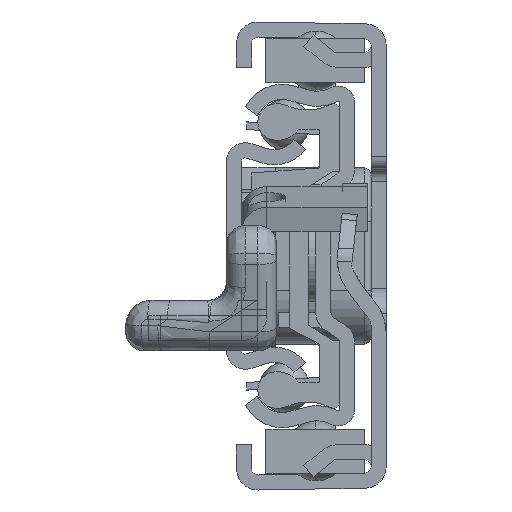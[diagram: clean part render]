
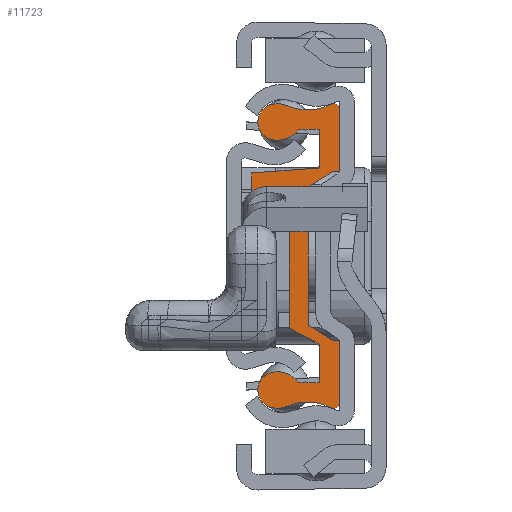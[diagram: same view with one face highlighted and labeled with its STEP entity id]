
A CAD part, left-side view. The second image highlights one B-rep face of the part: STEP entity #11723.
In plain terms, the highlighted planar face has unit normal (-1, 0, 0).
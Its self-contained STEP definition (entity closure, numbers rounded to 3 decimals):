
#11012=DIRECTION('',(0.,-1.,0.));
#11013=VECTOR('',#11012,0.5);
#11014=CARTESIAN_POINT('',(0.,0.5,6.75));
#11015=LINE('',#11014,#11013);
#11016=DIRECTION('',(0.,0.,-1.));
#11017=VECTOR('',#11016,11.);
#11018=CARTESIAN_POINT('',(0.,2.5,5.5));
#11019=LINE('',#11018,#11017);
#11020=DIRECTION('',(0.,1.,0.));
#11021=VECTOR('',#11020,0.5);
#11022=CARTESIAN_POINT('',(0.,0.,-6.75));
#11023=LINE('',#11022,#11021);
#11024=DIRECTION('',(0.,0.,-1.));
#11025=VECTOR('',#11024,4.85);
#11026=CARTESIAN_POINT('',(0.,0.,-6.75));
#11027=LINE('',#11026,#11025);
#11028=CARTESIAN_POINT('',(0.,0.5,-11.6));
#11029=DIRECTION('',(1.,0.,0.));
#11030=DIRECTION('',(0.,-1.,0.));
#11031=AXIS2_PLACEMENT_3D('',#11028,#11029,#11030);
#11033=CARTESIAN_POINT('',(0.,2.539,-15.612));
#11034=DIRECTION('',(-1.,0.,0.));
#11035=DIRECTION('',(0.,-0.453,0.891));
#11036=AXIS2_PLACEMENT_3D('',#11033,#11034,#11035);
#11038=CARTESIAN_POINT('',(0.,4.91,-10.1));
#11039=DIRECTION('',(1.,0.,0.));
#11040=DIRECTION('',(0.,-0.395,-0.919));
#11041=AXIS2_PLACEMENT_3D('',#11038,#11039,#11040);
#11043=CARTESIAN_POINT('',(0.,5.074,-10.65));
#11044=DIRECTION('',(1.,0.,0.));
#11045=DIRECTION('',(0.,0.286,-0.958));
#11046=AXIS2_PLACEMENT_3D('',#11043,#11044,#11045);
#11048=CARTESIAN_POINT('',(0.,4.91,-11.2));
#11049=DIRECTION('',(1.,0.,0.));
#11050=DIRECTION('',(0.,0.286,0.958));
#11051=AXIS2_PLACEMENT_3D('',#11048,#11049,#11050);
#11053=CARTESIAN_POINT('',(0.,4.91,-11.2));
#11054=DIRECTION('',(1.,0.,0.));
#11055=DIRECTION('',(0.,-0.395,0.919));
#11056=AXIS2_PLACEMENT_3D('',#11053,#11054,#11055);
#11058=CARTESIAN_POINT('',(0.,2.539,-15.612));
#11059=DIRECTION('',(1.,0.,0.));
#11060=DIRECTION('',(0.,0.13,0.992));
#11061=AXIS2_PLACEMENT_3D('',#11058,#11059,#11060);
#11063=DIRECTION('',(0.,0.,1.));
#11064=VECTOR('',#11063,3.09);
#11065=CARTESIAN_POINT('',(0.,1.605,-10.09));
#11066=LINE('',#11065,#11064);
#11067=DIRECTION('',(0.,0.887,0.463));
#11068=VECTOR('',#11067,2.701);
#11069=CARTESIAN_POINT('',(0.,1.605,-7.));
#11070=LINE('',#11069,#11068);
#11071=DIRECTION('',(0.,0.,1.));
#11072=VECTOR('',#11071,9.75);
#11073=CARTESIAN_POINT('',(0.,4.,-5.75));
#11074=LINE('',#11073,#11072);
#11075=DIRECTION('',(0.,0.999,0.033));
#11076=VECTOR('',#11075,3.002);
#11077=CARTESIAN_POINT('',(0.,4.,4.));
#11078=LINE('',#11077,#11076);
#11079=DIRECTION('',(0.,0.,1.));
#11080=VECTOR('',#11079,2.5);
#11081=CARTESIAN_POINT('',(0.,7.,4.1));
#11082=LINE('',#11081,#11080);
#11083=DIRECTION('',(0.,-0.997,0.074));
#11084=VECTOR('',#11083,5.41);
#11085=CARTESIAN_POINT('',(0.,7.,6.6));
#11086=LINE('',#11085,#11084);
#11087=DIRECTION('',(0.,0.,1.));
#11088=VECTOR('',#11087,3.09);
#11089=CARTESIAN_POINT('',(0.,1.605,7.));
#11090=LINE('',#11089,#11088);
#11091=CARTESIAN_POINT('',(0.,2.539,15.612));
#11092=DIRECTION('',(1.,0.,0.));
#11093=DIRECTION('',(0.,-0.167,-0.986));
#11094=AXIS2_PLACEMENT_3D('',#11091,#11092,#11093);
#11096=CARTESIAN_POINT('',(0.,4.91,11.2));
#11097=DIRECTION('',(1.,0.,0.));
#11098=DIRECTION('',(0.,-0.821,-0.57));
#11099=AXIS2_PLACEMENT_3D('',#11096,#11097,#11098);
#11101=CARTESIAN_POINT('',(0.,4.91,11.2));
#11102=DIRECTION('',(1.,0.,0.));
#11103=DIRECTION('',(0.,-0.395,-0.919));
#11104=AXIS2_PLACEMENT_3D('',#11101,#11102,#11103);
#11106=CARTESIAN_POINT('',(0.,5.074,10.65));
#11107=DIRECTION('',(1.,0.,0.));
#11108=DIRECTION('',(0.,0.286,-0.958));
#11109=AXIS2_PLACEMENT_3D('',#11106,#11107,#11108);
#11111=CARTESIAN_POINT('',(0.,4.91,10.1));
#11112=DIRECTION('',(1.,0.,0.));
#11113=DIRECTION('',(0.,0.286,0.958));
#11114=AXIS2_PLACEMENT_3D('',#11111,#11112,#11113);
#11116=CARTESIAN_POINT('',(0.,2.539,15.612));
#11117=DIRECTION('',(-1.,0.,0.));
#11118=DIRECTION('',(0.,0.395,-0.919));
#11119=AXIS2_PLACEMENT_3D('',#11116,#11117,#11118);
#11121=CARTESIAN_POINT('',(0.,0.5,11.6));
#11122=DIRECTION('',(1.,0.,0.));
#11123=DIRECTION('',(0.,0.453,0.891));
#11124=AXIS2_PLACEMENT_3D('',#11121,#11122,#11123);
#11126=DIRECTION('',(0.,0.,-1.));
#11127=VECTOR('',#11126,4.85);
#11128=CARTESIAN_POINT('',(0.,0.,11.6));
#11129=LINE('',#11128,#11127);
#11436=DIRECTION('',(0.,-0.848,0.53));
#11437=VECTOR('',#11436,2.358);
#11438=CARTESIAN_POINT('',(0.,2.5,5.5));
#11439=LINE('',#11438,#11437);
#11452=DIRECTION('',(0.,0.848,0.53));
#11453=VECTOR('',#11452,2.358);
#11454=CARTESIAN_POINT('',(0.,0.5,-6.75));
#11455=LINE('',#11454,#11453);
#11508=CARTESIAN_POINT('',(0.,4.12,-11.937));
#11509=CARTESIAN_POINT('',(0.,5.481,-12.017));
#11510=VERTEX_POINT('',#11508);
#11511=VERTEX_POINT('',#11509);
#11512=CARTESIAN_POINT('',(0.,5.481,-9.283));
#11513=VERTEX_POINT('',#11512);
#11514=CARTESIAN_POINT('',(0.,4.12,-9.363));
#11515=VERTEX_POINT('',#11514);
#11516=CARTESIAN_POINT('',(0.,3.267,-10.059));
#11517=VERTEX_POINT('',#11516);
#11518=CARTESIAN_POINT('',(0.,1.605,-10.09));
#11519=VERTEX_POINT('',#11518);
#11520=CARTESIAN_POINT('',(0.,1.605,10.09));
#11521=CARTESIAN_POINT('',(0.,3.267,10.059));
#11522=VERTEX_POINT('',#11520);
#11523=VERTEX_POINT('',#11521);
#11524=CARTESIAN_POINT('',(0.,4.12,9.363));
#11525=VERTEX_POINT('',#11524);
#11526=CARTESIAN_POINT('',(0.,5.481,9.283));
#11527=VERTEX_POINT('',#11526);
#11528=CARTESIAN_POINT('',(0.,5.481,12.017));
#11529=VERTEX_POINT('',#11528);
#11530=CARTESIAN_POINT('',(0.,4.12,11.937));
#11531=VERTEX_POINT('',#11530);
#11532=CARTESIAN_POINT('',(0.,0.727,12.046));
#11533=VERTEX_POINT('',#11532);
#11534=CARTESIAN_POINT('',(0.,0.,11.6));
#11535=VERTEX_POINT('',#11534);
#11536=CARTESIAN_POINT('',(0.,0.,-11.6));
#11537=CARTESIAN_POINT('',(0.,0.727,-12.046));
#11538=VERTEX_POINT('',#11536);
#11539=VERTEX_POINT('',#11537);
#11572=CARTESIAN_POINT('',(0.,1.605,-7.));
#11574=VERTEX_POINT('',#11572);
#11590=CARTESIAN_POINT('',(0.,0.,6.75));
#11591=VERTEX_POINT('',#11590);
#11592=CARTESIAN_POINT('',(0.,0.,-6.75));
#11593=VERTEX_POINT('',#11592);
#11594=CARTESIAN_POINT('',(0.,7.,4.1));
#11595=CARTESIAN_POINT('',(0.,7.,6.6));
#11596=VERTEX_POINT('',#11594);
#11597=VERTEX_POINT('',#11595);
#11602=CARTESIAN_POINT('',(0.,1.605,7.));
#11604=VERTEX_POINT('',#11602);
#11606=CARTESIAN_POINT('',(0.,4.,4.));
#11608=VERTEX_POINT('',#11606);
#11650=CARTESIAN_POINT('',(0.,2.5,5.5));
#11651=CARTESIAN_POINT('',(0.,0.5,6.75));
#11652=VERTEX_POINT('',#11650);
#11653=VERTEX_POINT('',#11651);
#11654=CARTESIAN_POINT('',(0.,0.5,-6.75));
#11655=CARTESIAN_POINT('',(0.,2.5,-5.5));
#11656=VERTEX_POINT('',#11654);
#11657=VERTEX_POINT('',#11655);
#11658=CARTESIAN_POINT('',(0.,4.,-5.75));
#11659=VERTEX_POINT('',#11658);
#11660=CARTESIAN_POINT('',(0.,0.,0.));
#11661=DIRECTION('',(1.,0.,0.));
#11662=DIRECTION('',(0.,0.,-1.));
#11663=AXIS2_PLACEMENT_3D('',#11660,#11661,#11662);
#11664=PLANE('',#11663);
#11666=ORIENTED_EDGE('',*,*,#11665,.F.);
#11668=ORIENTED_EDGE('',*,*,#11667,.F.);
#11670=ORIENTED_EDGE('',*,*,#11669,.T.);
#11672=ORIENTED_EDGE('',*,*,#11671,.F.);
#11674=ORIENTED_EDGE('',*,*,#11673,.F.);
#11676=ORIENTED_EDGE('',*,*,#11675,.T.);
#11678=ORIENTED_EDGE('',*,*,#11677,.T.);
#11680=ORIENTED_EDGE('',*,*,#11679,.T.);
#11682=ORIENTED_EDGE('',*,*,#11681,.T.);
#11684=ORIENTED_EDGE('',*,*,#11683,.T.);
#11686=ORIENTED_EDGE('',*,*,#11685,.T.);
#11688=ORIENTED_EDGE('',*,*,#11687,.T.);
#11690=ORIENTED_EDGE('',*,*,#11689,.T.);
#11692=ORIENTED_EDGE('',*,*,#11691,.T.);
#11694=ORIENTED_EDGE('',*,*,#11693,.T.);
#11696=ORIENTED_EDGE('',*,*,#11695,.T.);
#11698=ORIENTED_EDGE('',*,*,#11697,.T.);
#11700=ORIENTED_EDGE('',*,*,#11699,.T.);
#11702=ORIENTED_EDGE('',*,*,#11701,.T.);
#11704=ORIENTED_EDGE('',*,*,#11703,.T.);
#11706=ORIENTED_EDGE('',*,*,#11705,.T.);
#11708=ORIENTED_EDGE('',*,*,#11707,.T.);
#11710=ORIENTED_EDGE('',*,*,#11709,.T.);
#11712=ORIENTED_EDGE('',*,*,#11711,.T.);
#11714=ORIENTED_EDGE('',*,*,#11713,.T.);
#11716=ORIENTED_EDGE('',*,*,#11715,.T.);
#11718=ORIENTED_EDGE('',*,*,#11717,.T.);
#11720=ORIENTED_EDGE('',*,*,#11719,.T.);
#11721=EDGE_LOOP('',(#11666,#11668,#11670,#11672,#11674,#11676,#11678,#11680,
#11682,#11684,#11686,#11688,#11690,#11692,#11694,#11696,#11698,#11700,#11702,
#11704,#11706,#11708,#11710,#11712,#11714,#11716,#11718,#11720));
#11722=FACE_OUTER_BOUND('',#11721,.F.);
#11032=CIRCLE('',#11031,0.5);
#11037=CIRCLE('',#11036,4.);
#11042=CIRCLE('',#11041,2.);
#11047=CIRCLE('',#11046,1.426);
#11052=CIRCLE('',#11051,2.);
#11057=CIRCLE('',#11056,2.);
#11062=CIRCLE('',#11061,5.6);
#11095=CIRCLE('',#11094,5.6);
#11100=CIRCLE('',#11099,2.);
#11105=CIRCLE('',#11104,2.);
#11110=CIRCLE('',#11109,1.426);
#11115=CIRCLE('',#11114,2.);
#11120=CIRCLE('',#11119,4.);
#11125=CIRCLE('',#11124,0.5);
#11665=EDGE_CURVE('',#11653,#11591,#11015,.T.);
#11667=EDGE_CURVE('',#11652,#11653,#11439,.T.);
#11669=EDGE_CURVE('',#11652,#11657,#11019,.T.);
#11671=EDGE_CURVE('',#11656,#11657,#11455,.T.);
#11673=EDGE_CURVE('',#11593,#11656,#11023,.T.);
#11675=EDGE_CURVE('',#11593,#11538,#11027,.T.);
#11677=EDGE_CURVE('',#11538,#11539,#11032,.T.);
#11679=EDGE_CURVE('',#11539,#11510,#11037,.T.);
#11681=EDGE_CURVE('',#11510,#11511,#11042,.T.);
#11683=EDGE_CURVE('',#11511,#11513,#11047,.T.);
#11685=EDGE_CURVE('',#11513,#11515,#11052,.T.);
#11687=EDGE_CURVE('',#11515,#11517,#11057,.T.);
#11689=EDGE_CURVE('',#11517,#11519,#11062,.T.);
#11691=EDGE_CURVE('',#11519,#11574,#11066,.T.);
#11693=EDGE_CURVE('',#11574,#11659,#11070,.T.);
#11695=EDGE_CURVE('',#11659,#11608,#11074,.T.);
#11697=EDGE_CURVE('',#11608,#11596,#11078,.T.);
#11699=EDGE_CURVE('',#11596,#11597,#11082,.T.);
#11701=EDGE_CURVE('',#11597,#11604,#11086,.T.);
#11703=EDGE_CURVE('',#11604,#11522,#11090,.T.);
#11705=EDGE_CURVE('',#11522,#11523,#11095,.T.);
#11707=EDGE_CURVE('',#11523,#11525,#11100,.T.);
#11709=EDGE_CURVE('',#11525,#11527,#11105,.T.);
#11711=EDGE_CURVE('',#11527,#11529,#11110,.T.);
#11713=EDGE_CURVE('',#11529,#11531,#11115,.T.);
#11715=EDGE_CURVE('',#11531,#11533,#11120,.T.);
#11717=EDGE_CURVE('',#11533,#11535,#11125,.T.);
#11719=EDGE_CURVE('',#11535,#11591,#11129,.T.);
#11723=ADVANCED_FACE('',(#11722),#11664,.F.);
